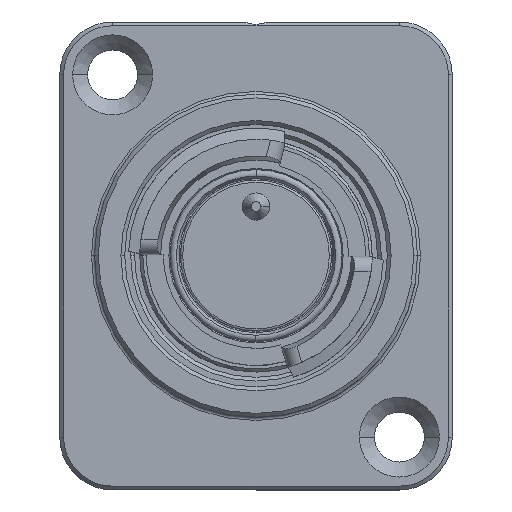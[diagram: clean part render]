
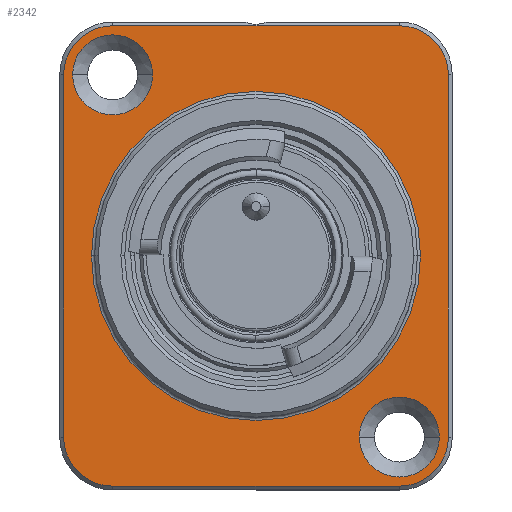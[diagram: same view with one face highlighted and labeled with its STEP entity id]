
A CAD part, top view. The second image highlights one B-rep face of the part: STEP entity #2342.
In plain terms, the highlighted planar face has unit normal (0, 0, 1).
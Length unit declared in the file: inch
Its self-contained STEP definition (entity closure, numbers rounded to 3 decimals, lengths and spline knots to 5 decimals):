
#76 = EDGE_CURVE ( 'NONE', #2324, #238, #1851, .T. ) ;
#81 = ORIENTED_EDGE ( 'NONE', *, *, #4261, .T. ) ;
#180 = ORIENTED_EDGE ( 'NONE', *, *, #76, .T. ) ;
#238 = VERTEX_POINT ( 'NONE', #7874 ) ;
#245 = CARTESIAN_POINT ( 'NONE',  ( -0.47835, 0.47244, -0.66535 ) ) ;
#260 = EDGE_CURVE ( 'NONE', #5443, #4008, #4440, .T. ) ;
#290 = VECTOR ( 'NONE', #8632, 39.37008 ) ;
#402 = FACE_BOUND ( 'NONE', #2513, .T. ) ;
#469 = VERTEX_POINT ( 'NONE', #3983 ) ;
#588 = DIRECTION ( 'NONE',  ( 0., -1., 0. ) ) ;
#589 = DIRECTION ( 'NONE',  ( -1., 0., 0. ) ) ;
#822 = CARTESIAN_POINT ( 'NONE',  ( 0.50197, -0.47244, -0.66535 ) ) ;
#948 = ORIENTED_EDGE ( 'NONE', *, *, #3821, .T. ) ;
#1055 = CIRCLE ( 'NONE', #1202, 0.10433 ) ;
#1087 = EDGE_CURVE ( 'NONE', #4008, #4184, #5302, .T. ) ;
#1105 = EDGE_LOOP ( 'NONE', ( #3815, #81 ) ) ;
#1119 = FACE_BOUND ( 'NONE', #7552, .T. ) ;
#1167 = AXIS2_PLACEMENT_3D ( 'NONE', #8117, #1444, #3419 ) ;
#1202 = AXIS2_PLACEMENT_3D ( 'NONE', #4122, #8752, #3440 ) ;
#1291 = EDGE_CURVE ( 'NONE', #1795, #5443, #2073, .T. ) ;
#1318 = VECTOR ( 'NONE', #588, 39.37008 ) ;
#1335 = CARTESIAN_POINT ( 'NONE',  ( 0.37402, 0.47244, -0.66535 ) ) ;
#1382 = CARTESIAN_POINT ( 'NONE',  ( 0.47835, -0.47244, -0.66535 ) ) ;
#1401 = EDGE_CURVE ( 'NONE', #2392, #3521, #3357, .T. ) ;
#1403 = AXIS2_PLACEMENT_3D ( 'NONE', #8489, #1691, #8535 ) ;
#1444 = DIRECTION ( 'NONE',  ( 0., 0., -1. ) ) ;
#1506 = CARTESIAN_POINT ( 'NONE',  ( -0.37402, 0.60039, -0.66535 ) ) ;
#1528 = EDGE_CURVE ( 'NONE', #3521, #469, #5872, .T. ) ;
#1691 = DIRECTION ( 'NONE',  ( 0., 0., 1. ) ) ;
#1740 = ORIENTED_EDGE ( 'NONE', *, *, #7477, .T. ) ;
#1795 = VERTEX_POINT ( 'NONE', #2582 ) ;
#1851 = CIRCLE ( 'NONE', #3545, 0.42913 ) ;
#1856 = DIRECTION ( 'NONE',  ( -1., 0., 0. ) ) ;
#1891 = VERTEX_POINT ( 'NONE', #245 ) ;
#1898 = CARTESIAN_POINT ( 'NONE',  ( 0.02706, 0.60039, -0.66535 ) ) ;
#1952 = DIRECTION ( 'NONE',  ( -1., 0., 0. ) ) ;
#2001 = EDGE_CURVE ( 'NONE', #6913, #1891, #6968, .T. ) ;
#2030 = CIRCLE ( 'NONE', #6323, 0.10433 ) ;
#2058 = DIRECTION ( 'NONE',  ( -1., 0., 0. ) ) ;
#2073 = LINE ( 'NONE', #4831, #5308 ) ;
#2273 = CARTESIAN_POINT ( 'NONE',  ( 0.37402, -0.60039, -0.66535 ) ) ;
#2324 = VERTEX_POINT ( 'NONE', #3899 ) ;
#2342 = ADVANCED_FACE ( 'NONE', ( #6509, #402, #1119, #3855 ), #5446, .F. ) ;
#2348 = CARTESIAN_POINT ( 'NONE',  ( 0.37402, 0.60039, -0.66535 ) ) ;
#2392 = VERTEX_POINT ( 'NONE', #2348 ) ;
#2503 = DIRECTION ( 'NONE',  ( 0., 0., -1. ) ) ;
#2513 = EDGE_LOOP ( 'NONE', ( #7410, #180 ) ) ;
#2581 = AXIS2_PLACEMENT_3D ( 'NONE', #6698, #4722, #589 ) ;
#2582 = CARTESIAN_POINT ( 'NONE',  ( -0.37402, -0.60039, -0.66535 ) ) ;
#2681 = ORIENTED_EDGE ( 'NONE', *, *, #1528, .T. ) ;
#2819 = CARTESIAN_POINT ( 'NONE',  ( 0., 0., -0.66535 ) ) ;
#3056 = EDGE_CURVE ( 'NONE', #238, #2324, #3449, .T. ) ;
#3217 = DIRECTION ( 'NONE',  ( -1., 0., 0. ) ) ;
#3283 = EDGE_CURVE ( 'NONE', #4184, #2392, #4909, .T. ) ;
#3312 = CARTESIAN_POINT ( 'NONE',  ( 0., 0., -0.66535 ) ) ;
#3357 = LINE ( 'NONE', #1898, #7815 ) ;
#3361 = ORIENTED_EDGE ( 'NONE', *, *, #5927, .T. ) ;
#3419 = DIRECTION ( 'NONE',  ( -1., 0., 0. ) ) ;
#3440 = DIRECTION ( 'NONE',  ( -1., 0., 0. ) ) ;
#3449 = CIRCLE ( 'NONE', #6988, 0.42913 ) ;
#3521 = VERTEX_POINT ( 'NONE', #1506 ) ;
#3534 = CARTESIAN_POINT ( 'NONE',  ( 0.50197, 0.47244, -0.66535 ) ) ;
#3545 = AXIS2_PLACEMENT_3D ( 'NONE', #3312, #5267, #3994 ) ;
#3654 = CIRCLE ( 'NONE', #8606, 0.10433 ) ;
#3815 = ORIENTED_EDGE ( 'NONE', *, *, #2001, .T. ) ;
#3821 = EDGE_CURVE ( 'NONE', #5231, #1795, #4177, .T. ) ;
#3833 = DIRECTION ( 'NONE',  ( 0., 0., -1. ) ) ;
#3855 = FACE_BOUND ( 'NONE', #1105, .T. ) ;
#3892 = LINE ( 'NONE', #6697, #1318 ) ;
#3899 = CARTESIAN_POINT ( 'NONE',  ( 0.42913, 0., -0.66535 ) ) ;
#3983 = CARTESIAN_POINT ( 'NONE',  ( -0.50197, 0.47244, -0.66535 ) ) ;
#3994 = DIRECTION ( 'NONE',  ( -1., 0., 0. ) ) ;
#4008 = VERTEX_POINT ( 'NONE', #822 ) ;
#4082 = DIRECTION ( 'NONE',  ( -1., 0., 0. ) ) ;
#4122 = CARTESIAN_POINT ( 'NONE',  ( 0.37402, -0.47244, -0.66535 ) ) ;
#4125 = ORIENTED_EDGE ( 'NONE', *, *, #1401, .T. ) ;
#4177 = CIRCLE ( 'NONE', #5615, 0.12795 ) ;
#4184 = VERTEX_POINT ( 'NONE', #3534 ) ;
#4261 = EDGE_CURVE ( 'NONE', #1891, #6913, #2030, .T. ) ;
#4440 = CIRCLE ( 'NONE', #1403, 0.12795 ) ;
#4514 = DIRECTION ( 'NONE',  ( -1., 0., 0. ) ) ;
#4575 = CARTESIAN_POINT ( 'NONE',  ( 0.37402, -0.47244, -0.66535 ) ) ;
#4722 = DIRECTION ( 'NONE',  ( 0., 0., 1. ) ) ;
#4831 = CARTESIAN_POINT ( 'NONE',  ( 0.37402, -0.60039, -0.66535 ) ) ;
#4853 = DIRECTION ( 'NONE',  ( -1., 0., 0. ) ) ;
#4865 = CARTESIAN_POINT ( 'NONE',  ( -0.37402, 0.47244, -0.66535 ) ) ;
#4909 = CIRCLE ( 'NONE', #7707, 0.12795 ) ;
#5133 = ORIENTED_EDGE ( 'NONE', *, *, #260, .T. ) ;
#5231 = VERTEX_POINT ( 'NONE', #8061 ) ;
#5262 = VERTEX_POINT ( 'NONE', #8100 ) ;
#5267 = DIRECTION ( 'NONE',  ( 0., 0., -1. ) ) ;
#5302 = LINE ( 'NONE', #7225, #290 ) ;
#5308 = VECTOR ( 'NONE', #5539, 39.37008 ) ;
#5340 = ORIENTED_EDGE ( 'NONE', *, *, #6241, .T. ) ;
#5443 = VERTEX_POINT ( 'NONE', #2273 ) ;
#5446 = PLANE ( 'NONE',  #1167 ) ;
#5539 = DIRECTION ( 'NONE',  ( 1., 0., 0. ) ) ;
#5615 = AXIS2_PLACEMENT_3D ( 'NONE', #7343, #6027, #3217 ) ;
#5872 = CIRCLE ( 'NONE', #2581, 0.12795 ) ;
#5927 = EDGE_CURVE ( 'NONE', #469, #5231, #3892, .T. ) ;
#5992 = EDGE_LOOP ( 'NONE', ( #4125, #2681, #3361, #948, #6381, #5133, #7632, #7358 ) ) ;
#6027 = DIRECTION ( 'NONE',  ( 0., 0., 1. ) ) ;
#6202 = DIRECTION ( 'NONE',  ( 0., 0., 1. ) ) ;
#6241 = EDGE_CURVE ( 'NONE', #5262, #6844, #1055, .T. ) ;
#6323 = AXIS2_PLACEMENT_3D ( 'NONE', #7795, #3833, #4514 ) ;
#6381 = ORIENTED_EDGE ( 'NONE', *, *, #1291, .T. ) ;
#6439 = CARTESIAN_POINT ( 'NONE',  ( -0.26969, 0.47244, -0.66535 ) ) ;
#6509 = FACE_OUTER_BOUND ( 'NONE', #5992, .T. ) ;
#6697 = CARTESIAN_POINT ( 'NONE',  ( -0.50197, -0.47244, -0.66535 ) ) ;
#6698 = CARTESIAN_POINT ( 'NONE',  ( -0.37402, 0.47244, -0.66535 ) ) ;
#6844 = VERTEX_POINT ( 'NONE', #1382 ) ;
#6913 = VERTEX_POINT ( 'NONE', #6439 ) ;
#6968 = CIRCLE ( 'NONE', #7131, 0.10433 ) ;
#6988 = AXIS2_PLACEMENT_3D ( 'NONE', #2819, #8179, #4853 ) ;
#7009 = DIRECTION ( 'NONE',  ( 0., 0., -1. ) ) ;
#7131 = AXIS2_PLACEMENT_3D ( 'NONE', #4865, #7009, #2058 ) ;
#7225 = CARTESIAN_POINT ( 'NONE',  ( 0.50197, 0.47244, -0.66535 ) ) ;
#7343 = CARTESIAN_POINT ( 'NONE',  ( -0.37402, -0.47244, -0.66535 ) ) ;
#7358 = ORIENTED_EDGE ( 'NONE', *, *, #3283, .T. ) ;
#7410 = ORIENTED_EDGE ( 'NONE', *, *, #3056, .T. ) ;
#7477 = EDGE_CURVE ( 'NONE', #6844, #5262, #3654, .T. ) ;
#7552 = EDGE_LOOP ( 'NONE', ( #1740, #5340 ) ) ;
#7632 = ORIENTED_EDGE ( 'NONE', *, *, #1087, .T. ) ;
#7707 = AXIS2_PLACEMENT_3D ( 'NONE', #1335, #6202, #4082 ) ;
#7795 = CARTESIAN_POINT ( 'NONE',  ( -0.37402, 0.47244, -0.66535 ) ) ;
#7815 = VECTOR ( 'NONE', #1856, 39.37008 ) ;
#7874 = CARTESIAN_POINT ( 'NONE',  ( -0.42913, 0., -0.66535 ) ) ;
#8061 = CARTESIAN_POINT ( 'NONE',  ( -0.50197, -0.47244, -0.66535 ) ) ;
#8100 = CARTESIAN_POINT ( 'NONE',  ( 0.26969, -0.47244, -0.66535 ) ) ;
#8117 = CARTESIAN_POINT ( 'NONE',  ( 0., 0.825, -0.66535 ) ) ;
#8179 = DIRECTION ( 'NONE',  ( 0., 0., -1. ) ) ;
#8489 = CARTESIAN_POINT ( 'NONE',  ( 0.37402, -0.47244, -0.66535 ) ) ;
#8535 = DIRECTION ( 'NONE',  ( -1., 0., 0. ) ) ;
#8606 = AXIS2_PLACEMENT_3D ( 'NONE', #4575, #2503, #1952 ) ;
#8632 = DIRECTION ( 'NONE',  ( 0., 1., 0. ) ) ;
#8752 = DIRECTION ( 'NONE',  ( 0., 0., -1. ) ) ;
